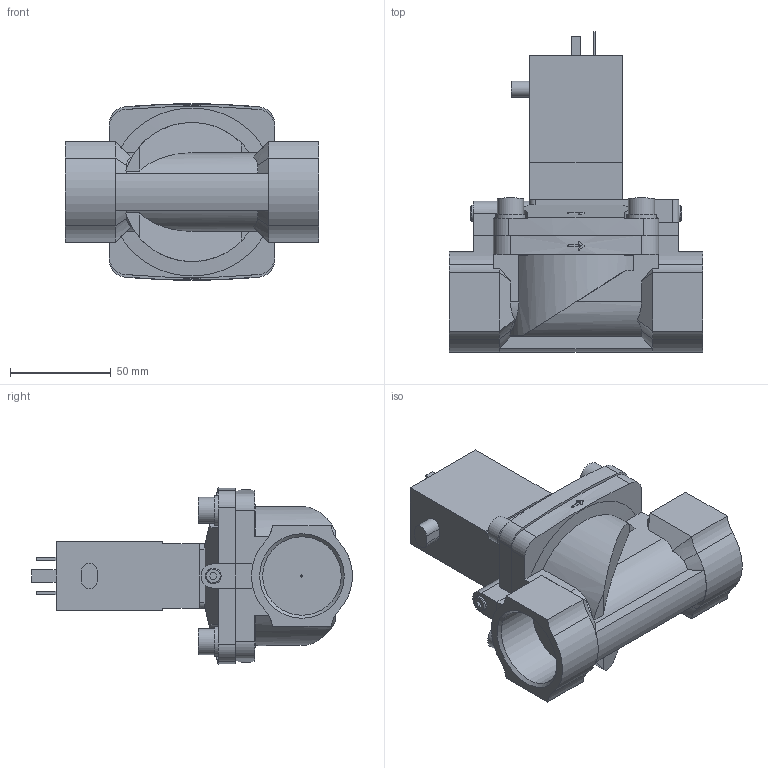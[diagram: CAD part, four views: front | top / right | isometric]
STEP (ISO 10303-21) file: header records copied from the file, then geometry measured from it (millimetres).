
FILE_DESCRIPTION( ( 'STEP AP214' ), '1' );
FILE_NAME( 'p:/temp/worker_40/temp/app_47_02018110215182830652236192d056f_000000_00_00_000000/format_0/5282-134529-Servo-assisted_2_2_way_diaphragm_valve.stp', '2018-11-02T14:18:29', ( '' ), ( '' ), ' ', 'PARTsolutions', ' ' );
FILE_SCHEMA( ( 'AUTOMOTIVE_DESIGN { 1 0 10303 214 1 1 1 1 }' ) );
Length unit declared in the file: millimetre
Products named in the file (4): 5282-134529-Servo-assisted 2/2 way diaphragm valve; HI_5282d-32VAOO2-2/2-Wege-Magnetventil_Deckel; HI_5282g-8732VA -2/2-Wege-Magnetventil_Gehaeuse; HI_0331-VA-3/2-way-Solenoid-Valve or 4-way-combination
Assembly tree (3 placements, depth 2):
  5282-134529-Servo-assisted 2/2 way diaphragm valve
    HI_5282d-32VAOO2-2/2-Wege-Magnetventil_Deckel
    HI_5282g-8732VA -2/2-Wege-Magnetventil_Gehaeuse
    HI_0331-VA-3/2-way-Solenoid-Valve or 4-way-combination
Bounding box: 126 x 158.92 x 87.6 mm (x, y, z)
Volume: 483395.9 mm3; surface area: 79286.4 mm2
Topology: 3 solids, 3 shells, 248 faces, 648 edges, 427 vertices
Faces by surface type: plane 159, cylinder 73, cone 16
Full cylindrical faces by diameter (mm): 1 x1, 7.8 x2, 13 x4, 14.8 x4, 38.952 x2
Entity records: 9706 total; most frequent: CARTESIAN_POINT 1546, DIRECTION 1272, ORIENTED_EDGE 1252, EDGE_CURVE 626, AXIS2_PLACEMENT_3D 436, VERTEX_POINT 422, LINE 400, VECTOR 400
